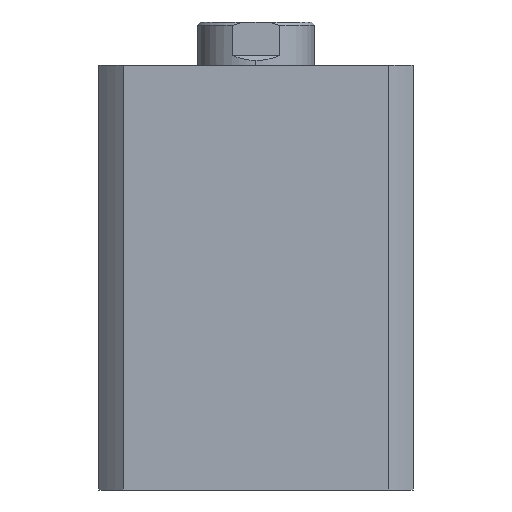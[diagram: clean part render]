
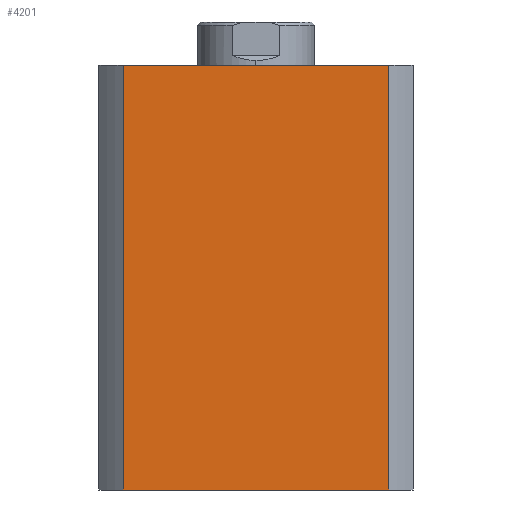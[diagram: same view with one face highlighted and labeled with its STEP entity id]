
A CAD part, left-side view. The second image highlights one B-rep face of the part: STEP entity #4201.
In plain terms, the highlighted planar face has unit normal (-1, 0, 0).
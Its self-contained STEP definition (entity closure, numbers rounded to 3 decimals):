
#427 = LINE ( 'NONE', #1823, #429 ) ;
#429 = VECTOR ( 'NONE', #1830, 1000. ) ;
#467 = LINE ( 'NONE', #1544, #473 ) ;
#469 = LINE ( 'NONE', #1542, #471 ) ;
#471 = VECTOR ( 'NONE', #1535, 1000. ) ;
#472 = LINE ( 'NONE', #1550, #475 ) ;
#473 = VECTOR ( 'NONE', #1549, 1000. ) ;
#475 = VECTOR ( 'NONE', #1552, 1000. ) ;
#1013 = EDGE_LOOP ( 'NONE', ( #1033, #1032, #1031, #1030 ) ) ;
#1030 = ORIENTED_EDGE ( 'NONE', *, *, #3165, .T. ) ;
#1031 = ORIENTED_EDGE ( 'NONE', *, *, #3132, .F. ) ;
#1032 = ORIENTED_EDGE ( 'NONE', *, *, #3167, .F. ) ;
#1033 = ORIENTED_EDGE ( 'NONE', *, *, #3166, .T. ) ;
#1326 = CARTESIAN_POINT ( 'NONE',  ( -47., -39.664, 0. ) ) ;
#1327 = CARTESIAN_POINT ( 'NONE',  ( -47., 39.664, 0. ) ) ;
#1346 = CARTESIAN_POINT ( 'NONE',  ( -47., -39.664, 127. ) ) ;
#1347 = CARTESIAN_POINT ( 'NONE',  ( -47., 39.664, 127. ) ) ;
#1535 = DIRECTION ( 'NONE',  ( 0., 0., -1. ) ) ;
#1542 = CARTESIAN_POINT ( 'NONE',  ( -47., 39.664, 127. ) ) ;
#1544 = CARTESIAN_POINT ( 'NONE',  ( -47., 0., 0. ) ) ;
#1549 = DIRECTION ( 'NONE',  ( 0., -1., 0. ) ) ;
#1550 = CARTESIAN_POINT ( 'NONE',  ( -47., -39.664, 127. ) ) ;
#1552 = DIRECTION ( 'NONE',  ( 0., 0., -1. ) ) ;
#1683 = AXIS2_PLACEMENT_3D ( 'NONE', #3524, #3532, #3533 ) ;
#1823 = CARTESIAN_POINT ( 'NONE',  ( -47., 0., 127. ) ) ;
#1830 = DIRECTION ( 'NONE',  ( 0., -1., 0. ) ) ;
#2644 = FACE_OUTER_BOUND ( 'NONE', #1013, .T. ) ;
#3132 = EDGE_CURVE ( 'NONE', #3939, #3938, #427, .T. ) ;
#3165 = EDGE_CURVE ( 'NONE', #3939, #3919, #469, .T. ) ;
#3166 = EDGE_CURVE ( 'NONE', #3919, #3918, #467, .T. ) ;
#3167 = EDGE_CURVE ( 'NONE', #3938, #3918, #472, .T. ) ;
#3524 = CARTESIAN_POINT ( 'NONE',  ( -47., 0., 127. ) ) ;
#3529 = PLANE ( 'NONE',  #1683 ) ;
#3532 = DIRECTION ( 'NONE',  ( 1., 0., 0. ) ) ;
#3533 = DIRECTION ( 'NONE',  ( 0., 0., -1. ) ) ;
#3918 = VERTEX_POINT ( 'NONE', #1326 ) ;
#3919 = VERTEX_POINT ( 'NONE', #1327 ) ;
#3938 = VERTEX_POINT ( 'NONE', #1346 ) ;
#3939 = VERTEX_POINT ( 'NONE', #1347 ) ;
#4201 = ADVANCED_FACE ( 'NONE', ( #2644 ), #3529, .F. ) ;
